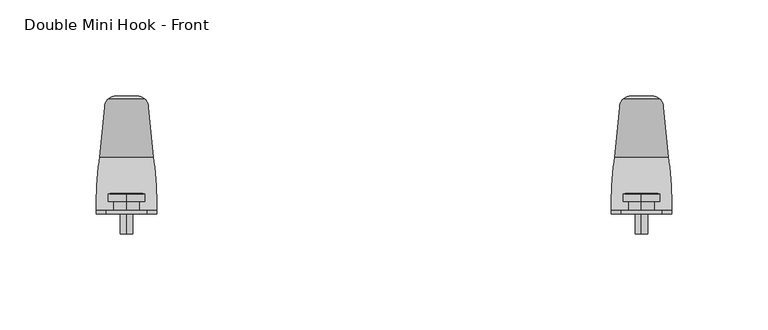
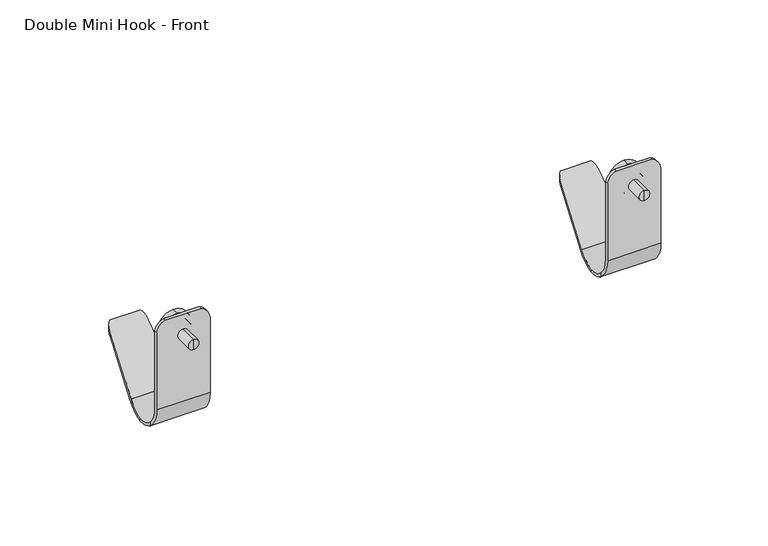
"""IFC4 building model written with IfcOpenShell, lengths in millimetres: furniture geometry, Steelcase Turnstone - Bivi - Accessories - Mini Hook : Double Mini Hook - Front."""

from ifc_helpers import new_model, si_unit, frame, origin, place, context, project, spatial, polyline, circle_curve, ellipse_curve, source, transform, mapped, element, save
from ifc_brep_helpers import plane_surface, cylinder_surface, revolved_surface, advanced_brep


def double_mini_hook_front_c12a3f64(model_context):
    return source(origin(), model_context, "Body", "AdvancedBrep", [
        advanced_brep(
        [(604.2870131, 120.2757621, 1018.5729419), (604.2870131, 120.2757621, 1027.0526221), (604.2870131, 120.2757621, 1035.5323022), (604.2870131, 119.8984646, 1017.6150198), (604.2870131, 119.8984646, 1036.4902243), (604.2870131, 115.9614653, 1017.6150198), (604.2870131, 115.9614653, 1036.4902243), (604.2870131, 115.9614653, 1020.4385878), (604.2870131, 115.9614653, 1033.6666563), (604.2870131, 110.3692216, 1020.4385878), (604.2870131, 110.3692216, 1033.6666563), (604.2870131, 110.3692216, 1023.8073744), (604.2870131, 110.3692216, 1030.2978697), (604.2870131, 99.1020656, 1023.8073744), (604.2870131, 99.1020656, 1030.2978697), (604.2870131, 99.1020656, 1027.0526221)],
        [
            (0, 1),
            (1, 2),
            (2, 0, circle_curve(frame((604.2870131, 120.2757621, 1027.0526221), z_axis=(0.0, 1.0, 0.0), x_axis=(0.0, 0.0, 1.0)), 8.4796802)),
            (0, 2, circle_curve(frame((604.2870131, 120.2757621, 1027.0526221), z_axis=(0.0, 1.0, 0.0), x_axis=(0.0, 0.0, 1.0)), 8.4796802)),
            (3, 0),
            (2, 4),
            (4, 3, circle_curve(frame((604.2870131, 119.8984646, 1027.0526221), z_axis=(0.0, 1.0, 0.0), x_axis=(0.0, 0.0, 1.0)), 9.4376022)),
            (3, 4, circle_curve(frame((604.2870131, 119.8984646, 1027.0526221), z_axis=(0.0, 1.0, 0.0), x_axis=(0.0, 0.0, 1.0)), 9.4376022)),
            (5, 3),
            (4, 6),
            (6, 5, circle_curve(frame((604.2870131, 115.9614653, 1027.0526221), z_axis=(0.0, 1.0, 0.0), x_axis=(0.0, 0.0, 1.0)), 9.4376022)),
            (5, 6, circle_curve(frame((604.2870131, 115.9614653, 1027.0526221), z_axis=(0.0, 1.0, 0.0), x_axis=(0.0, 0.0, 1.0)), 9.4376022)),
            (7, 5),
            (6, 8),
            (8, 7, circle_curve(frame((604.2870131, 115.9614653, 1027.0526221), z_axis=(0.0, 1.0, 0.0), x_axis=(0.0, 0.0, 1.0)), 6.6140343)),
            (7, 8, circle_curve(frame((604.2870131, 115.9614653, 1027.0526221), z_axis=(0.0, 1.0, 0.0), x_axis=(0.0, 0.0, 1.0)), 6.6140343)),
            (9, 7),
            (8, 10),
            (10, 9, circle_curve(frame((604.2870131, 110.3692216, 1027.0526221), z_axis=(0.0, 1.0, 0.0), x_axis=(0.0, 0.0, 1.0)), 6.6140343)),
            (9, 10, circle_curve(frame((604.2870131, 110.3692216, 1027.0526221), z_axis=(0.0, 1.0, 0.0), x_axis=(0.0, 0.0, 1.0)), 6.6140343)),
            (11, 9),
            (10, 12),
            (12, 11, circle_curve(frame((604.2870131, 110.3692216, 1027.0526221), z_axis=(0.0, 1.0, 0.0), x_axis=(0.0, 0.0, 1.0)), 3.2452477)),
            (11, 12, circle_curve(frame((604.2870131, 110.3692216, 1027.0526221), z_axis=(0.0, 1.0, 0.0), x_axis=(0.0, 0.0, 1.0)), 3.2452477)),
            (13, 11),
            (12, 14),
            (14, 13, circle_curve(frame((604.2870131, 99.1020656, 1027.0526221), z_axis=(0.0, 1.0, 0.0), x_axis=(0.0, 0.0, 1.0)), 3.2452477)),
            (13, 14, circle_curve(frame((604.2870131, 99.1020656, 1027.0526221), z_axis=(0.0, 1.0, 0.0), x_axis=(0.0, 0.0, 1.0)), 3.2452477)),
            (15, 13),
            (14, 15),
        ],
        [
            plane_surface(frame((604.2870131, 120.2757621, 1027.0526221), z_axis=(0.0, 1.0, 0.0), x_axis=(0.0, 0.0, 1.0))),
            revolved_surface(polyline([(604.2870131, 120.2757621, 1035.5323022), (604.2870131, 119.8984646, 1036.4902243)]), (604.2870131, 116.6738789, 1027.0526221), (0.0, -1.0, 0.0)),
            cylinder_surface(frame((604.2870131, 116.6738789, 1027.0526221), z_axis=(0.0, -1.0, 0.0), x_axis=(0.0, 0.0, 1.0)), 9.4376022),
            plane_surface(frame((604.2870131, 115.9614653, 1027.0526221), z_axis=(0.0, -1.0, 0.0), x_axis=(0.0, 0.0, 1.0))),
            cylinder_surface(frame((604.2870131, 116.6738789, 1027.0526221), z_axis=(0.0, -1.0, 0.0), x_axis=(0.0, 0.0, 1.0)), 6.6140343),
            plane_surface(frame((604.2870131, 110.3692216, 1027.0526221), z_axis=(0.0, -1.0, 0.0), x_axis=(0.0, 0.0, 1.0))),
            cylinder_surface(frame((604.2870131, 116.6738789, 1027.0526221), z_axis=(0.0, -1.0, 0.0), x_axis=(0.0, 0.0, 1.0)), 3.2452477),
            plane_surface(frame((604.2870131, 99.1020656, 1027.0526221), z_axis=(0.0, -1.0, 0.0), x_axis=(0.0, 0.0, 1.0))),
        ],
        [
            (0, [[1, 2, 3]]),
            (0, [[-2, -1, 4]]),
            (1, [[5, -3, 6, 7]]),
            (1, [[-6, -4, -5, 8]]),
            (2, [[9, -7, 10, 11]]),
            (2, [[-10, -8, -9, 12]]),
            (3, [[13, -11, 14, 15]]),
            (3, [[-14, -12, -13, 16]]),
            (4, [[17, -15, 18, 19]]),
            (4, [[-18, -16, -17, 20]]),
            (5, [[21, -19, 22, 23]]),
            (5, [[-22, -20, -21, 24]]),
            (6, [[25, -23, 26, 27]]),
            (6, [[-26, -24, -25, 28]]),
            (7, [[29, -27, 30]]),
            (7, [[-30, -28, -29]]),
        ],
    ),
        advanced_brep(
        [(588.412011, 111.3895045, 985.0156196), (588.412011, 115.9875666, 973.6348117), (588.412011, 115.9875666, 971.1769593), (588.412011, 109.4844564, 985.0156196), (588.412011, 109.4844564, 1031.8857507), (588.412011, 109.4844564, 1033.6357817), (588.412011, 111.3895045, 1033.6357817), (588.412011, 111.3895045, 1031.8857507), (620.1620178, 109.4844564, 985.0156196), (620.1620178, 115.9875175, 971.1770008), (620.1620178, 115.9875175, 973.6348625), (620.1620178, 111.3895045, 985.0156196), (620.1620178, 111.3895045, 1031.8857305), (620.1620178, 109.4844564, 1031.8857305), (589.0070625, 127.3418275, 966.8432061), (590.4000571, 140.5952849, 971.9889373), (618.1739692, 140.5952849, 971.9889373), (619.5669637, 127.3418275, 966.8432061), (592.989597, 165.2331117, 995.7814101), (598.8540827, 171.0975973, 1001.444678), (609.7199436, 171.0975973, 1001.444678), (615.5844292, 165.2331117, 995.7814101), (595.1226772, 169.757358, 1002.7849173), (613.451349, 169.757358, 1002.7849173), (592.989597, 165.2331117, 998.4159034), (590.2616932, 139.2788407, 973.3521552), (618.312333, 139.2788407, 973.3521552), (615.5844292, 165.2331117, 998.4159034), (619.5669637, 127.3418275, 968.6377665), (589.0070625, 127.3418275, 968.6377665), (593.7460056, 111.3895045, 1039.7526221), (614.8431999, 111.3895045, 1039.7526221), (593.7460056, 109.4844564, 1039.7526221), (614.8431999, 109.4844564, 1039.7526221)],
        [
            (0, 1, circle_curve(frame((588.412011, 127.7730331, 985.0156196), z_axis=(1.0, 0.0, 0.0), x_axis=(0.0, 1.0, 0.0)), 16.3835286)),
            (1, 2),
            (2, 3, circle_curve(frame((588.412011, 127.8422681, 985.1950728), z_axis=(-1.0, 0.0, 0.0), x_axis=(0.0, 1.0, 0.0)), 18.3586888)),
            (3, 4),
            (4, 5),
            (5, 6),
            (6, 7),
            (7, 0),
            (8, 9, circle_curve(frame((620.1620178, 127.8422681, 985.1950728), z_axis=(1.0, 0.0, 0.0), x_axis=(0.0, 1.0, 0.0)), 18.3586888)),
            (9, 10),
            (10, 11, circle_curve(frame((620.1620178, 127.7730331, 985.0156196), z_axis=(-1.0, 0.0, 0.0), x_axis=(0.0, 1.0, 0.0)), 16.3835286)),
            (11, 12),
            (12, 13),
            (13, 8),
            (2, 14, ellipse_curve(frame((589.0332895, 127.8422681, 985.1950728), z_axis=(0.998629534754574, -0.05233595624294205, 0.0), x_axis=(-0.052335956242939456, -0.998629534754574, 0.0)), 18.3838833, 18.3586888)),
            (14, 15, ellipse_curve(frame((589.059661, 127.8422681, 985.1950728), z_axis=(0.9945218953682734, -0.10452846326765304, 0.0), x_axis=(-0.10452846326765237, -0.9945218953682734, 0.0)), 18.4598136, 18.3586888)),
            (15, 16),
            (16, 17, ellipse_curve(frame((619.5143652, 127.8422681, 985.1950728), z_axis=(-0.9945218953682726, -0.10452846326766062, 0.0), x_axis=(-0.1045284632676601, 0.9945218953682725, 0.0)), 18.4598136, 18.3586888)),
            (17, 9, ellipse_curve(frame((619.5407367, 127.8422681, 985.1950728), z_axis=(-0.9986295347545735, -0.052335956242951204, 0.0), x_axis=(-0.05233595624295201, 0.9986295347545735, 0.0)), 18.3838833, 18.3586888)),
            (8, 3),
            (15, 18),
            (18, 19, ellipse_curve(frame((598.8540827, 165.2331117, 995.7814101), z_axis=(0.0, 0.6946583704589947, -0.7193398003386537), x_axis=(0.0, -0.7193398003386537, -0.6946583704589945)), 8.1525944, 5.8644857)),
            (19, 20),
            (20, 21, ellipse_curve(frame((609.7199436, 165.2331117, 995.7814101), z_axis=(0.0, 0.6946583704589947, -0.7193398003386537), x_axis=(0.0, -0.7193398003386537, -0.6946583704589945)), 8.1525944, 5.8644857)),
            (21, 16),
            (19, 22, ellipse_curve(frame((598.8540827, 165.2331117, 1007.3091637), z_axis=(0.0, 0.7071067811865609, 0.7071067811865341), x_axis=(0.0, 0.7071067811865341, -0.7071067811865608)), 8.2936352, 5.8644857)),
            (22, 23),
            (23, 20, ellipse_curve(frame((609.7199436, 165.2331117, 1007.3091637), z_axis=(0.0, 0.7071067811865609, 0.7071067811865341), x_axis=(0.0, 0.7071067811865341, -0.7071067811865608)), 8.2936352, 5.8644857)),
            (22, 24, ellipse_curve(frame((598.8540827, 165.2331117, 998.4159034), z_axis=(0.0, -0.6946583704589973, 0.7193398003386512), x_axis=(0.0, -0.7193398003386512, -0.6946583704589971)), 8.1525944, 5.8644857)),
            (24, 25),
            (25, 26),
            (26, 27),
            (27, 23, ellipse_curve(frame((609.7199436, 165.2331117, 998.4159034), z_axis=(0.0, -0.6946583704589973, 0.7193398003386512), x_axis=(0.0, -0.7193398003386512, -0.6946583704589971)), 8.1525944, 5.8644857)),
            (10, 28, ellipse_curve(frame((619.5443651, 127.7730331, 985.0156196), z_axis=(0.9986295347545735, 0.052335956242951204, 0.0), x_axis=(0.05233595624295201, -0.9986295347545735, 0.0)), 16.4060125, 16.3835286)),
            (28, 26, ellipse_curve(frame((619.5216421, 127.7730331, 985.0156196), z_axis=(0.9945218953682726, 0.10452846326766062, 0.0), x_axis=(0.1045284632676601, -0.9945218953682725, 0.0)), 16.4737737, 16.3835286)),
            (25, 29, ellipse_curve(frame((589.0523841, 127.7730331, 985.0156196), z_axis=(-0.9945218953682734, 0.10452846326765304, 0.0), x_axis=(0.10452846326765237, 0.9945218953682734, 0.0)), 16.4737737, 16.3835286)),
            (29, 1, ellipse_curve(frame((589.0296611, 127.7730331, 985.0156196), z_axis=(-0.998629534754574, 0.05233595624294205, 0.0), x_axis=(0.052335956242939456, 0.998629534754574, 0.0)), 16.4060125, 16.3835286)),
            (0, 11),
            (6, 30, circle_curve(frame((595.5897362, 111.3895045, 1032.7607662), z_axis=(0.0, 1.0, 0.0), x_axis=(-1.0, 0.0, 0.0)), 7.2308638)),
            (30, 31),
            (31, 12, circle_curve(frame((610.8894917, 111.3895045, 1031.3404182), z_axis=(0.0, 1.0, 0.0), x_axis=(-1.0, 0.0, 0.0)), 9.288547)),
            (30, 32),
            (32, 33),
            (33, 31),
            (13, 33, circle_curve(frame((610.8894917, 109.4844564, 1031.3404182), z_axis=(0.0, -1.0, 0.0), x_axis=(-1.0, 0.0, 0.0)), 9.288547)),
            (32, 5, circle_curve(frame((595.5897362, 109.4844564, 1032.7607662), z_axis=(0.0, -1.0, 0.0), x_axis=(-1.0, 0.0, 0.0)), 7.2308638)),
            (21, 27),
            (28, 17),
            (29, 14),
            (18, 24),
        ],
        [
            plane_surface(frame((588.412011, 146.2009569, 985.1950728), z_axis=(-1.0, 0.0, 0.0), x_axis=(0.0, 0.0, 1.0))),
            plane_surface(frame((620.1620178, 146.2009569, 985.1950728), z_axis=(1.0, 0.0, 0.0), x_axis=(0.0, 0.0, -1.0))),
            cylinder_surface(frame((620.1620178, 127.8422681, 985.1950728), z_axis=(-1.0, 0.0, 0.0), x_axis=(0.0, 1.0, 0.0)), 18.3586888),
            plane_surface(frame((588.412011, 140.5952849, 971.9889373), z_axis=(0.0, 0.6946583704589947, -0.7193398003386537), x_axis=(1.0, 0.0, 0.0))),
            plane_surface(frame((588.412011, 171.0975973, 1001.444678), z_axis=(0.0, 0.7071067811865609, 0.7071067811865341), x_axis=(1.0, 0.0, 0.0))),
            plane_surface(frame((588.412011, 169.757358, 1002.7849173), z_axis=(0.0, -0.6946583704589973, 0.7193398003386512), x_axis=(1.0, 0.0, 0.0))),
            revolved_surface(polyline([(621.2436203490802, 144.1565617, 985.0156196), (587.33040585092, 144.1565617, 985.0156196)]), (620.1620178, 127.7730331, 985.0156196), (1.0, 0.0, 0.0)),
            plane_surface(frame((588.412011, 111.3895045, 985.0156196), z_axis=(0.0, 1.0, 0.0), x_axis=(1.0, 0.0, 0.0))),
            plane_surface(frame((588.412011, 111.3895045, 1039.7526221), z_axis=(0.0, 0.0, 1.0), x_axis=(1.0, 0.0, 0.0))),
            plane_surface(frame((588.412011, 109.4844564, 1039.7526221), z_axis=(0.0, -1.0, 0.0), x_axis=(1.0, 0.0, 0.0))),
            cylinder_surface(frame((610.8894917, 76.958841, 1031.3404182), z_axis=(0.0, -1.0, 0.0), x_axis=(-1.0, 0.0, 0.0)), 9.288547),
            cylinder_surface(frame((595.5897362, 131.6332564, 1032.7607662), z_axis=(0.0, -1.0, 0.0), x_axis=(-1.0, 0.0, 0.0)), 7.2308638),
            plane_surface(frame((619.5669637, 127.3418275, 1017.6150198), z_axis=(0.9945218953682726, 0.10452846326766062, 0.0), x_axis=(0.0, 0.0, -1.0))),
            cylinder_surface(frame((609.7199436, 165.2331117, 316.2188303), z_axis=(0.0, 0.0, -1.0), x_axis=(0.0, 1.0, 0.0)), 5.8644857),
            plane_surface(frame((620.1620178, 115.9875175, 1017.6150198), z_axis=(0.9986295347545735, 0.052335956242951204, 0.0), x_axis=(0.0, 0.0, -1.0))),
            plane_surface(frame((589.0070625, 127.3418275, 1017.6150198), z_axis=(-0.998629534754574, 0.05233595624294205, 0.0), x_axis=(0.0, 0.0, -1.0))),
            cylinder_surface(frame((598.8540827, 165.2331117, 316.2188303), z_axis=(0.0, 0.0, -1.0), x_axis=(0.0, 1.0, 0.0)), 5.8644857),
            plane_surface(frame((592.989597, 165.2331117, 1017.6150198), z_axis=(-0.9945218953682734, 0.10452846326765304, 0.0), x_axis=(0.0, 0.0, -1.0))),
        ],
        [
            (0, [[1, 2, 3, 4, 5, 6, 7, 8]]),
            (1, [[9, 10, 11, 12, 13, 14]]),
            (2, [[-3, 15, 16, 17, 18, 19, -9, 20]]),
            (3, [[21, 22, 23, 24, 25, -17]]),
            (4, [[26, 27, 28, -23]]),
            (5, [[29, 30, 31, 32, 33, -27]]),
            (6, [[-11, 34, 35, -31, 36, 37, -1, 38]]),
            (7, [[-8, -7, 39, 40, 41, -12, -38]]),
            (8, [[42, 43, 44, -40]]),
            (9, [[-14, 45, -43, 46, -5, -4, -20]]),
            (10, [[-41, -44, -45, -13]]),
            (11, [[-46, -42, -39, -6]]),
            (12, [[-18, -25, 47, -32, -35, 48]]),
            (13, [[-24, -28, -33, -47]]),
            (14, [[-34, -10, -19, -48]]),
            (15, [[-15, -2, -37, 49]]),
            (16, [[-29, -26, -22, 50]]),
            (17, [[-36, -30, -50, -21, -16, -49]]),
        ],
    ),
        advanced_brep(
        [(872.4689869, 120.2757621, 1018.5729419), (872.4689869, 120.2757621, 1027.0526221), (872.4689869, 120.2757621, 1035.5323022), (872.4689869, 119.8984646, 1017.6150198), (872.4689869, 119.8984646, 1036.4902243), (872.4689869, 115.9614653, 1017.6150198), (872.4689869, 115.9614653, 1036.4902243), (872.4689869, 115.9614653, 1020.4385878), (872.4689869, 115.9614653, 1033.6666563), (872.4689869, 110.3692216, 1020.4385878), (872.4689869, 110.3692216, 1033.6666563), (872.4689869, 110.3692216, 1023.8073744), (872.4689869, 110.3692216, 1030.2978697), (872.4689869, 99.1020656, 1023.8073744), (872.4689869, 99.1020656, 1030.2978697), (872.4689869, 99.1020656, 1027.0526221)],
        [
            (0, 1),
            (1, 2),
            (2, 0, circle_curve(frame((872.4689869, 120.2757621, 1027.0526221), z_axis=(0.0, 1.0, 0.0), x_axis=(0.0, 0.0, 1.0)), 8.4796802)),
            (0, 2, circle_curve(frame((872.4689869, 120.2757621, 1027.0526221), z_axis=(0.0, 1.0, 0.0), x_axis=(0.0, 0.0, 1.0)), 8.4796802)),
            (3, 0),
            (2, 4),
            (4, 3, circle_curve(frame((872.4689869, 119.8984646, 1027.0526221), z_axis=(0.0, 1.0, 0.0), x_axis=(0.0, 0.0, 1.0)), 9.4376022)),
            (3, 4, circle_curve(frame((872.4689869, 119.8984646, 1027.0526221), z_axis=(0.0, 1.0, 0.0), x_axis=(0.0, 0.0, 1.0)), 9.4376022)),
            (5, 3),
            (4, 6),
            (6, 5, circle_curve(frame((872.4689869, 115.9614653, 1027.0526221), z_axis=(0.0, 1.0, 0.0), x_axis=(0.0, 0.0, 1.0)), 9.4376022)),
            (5, 6, circle_curve(frame((872.4689869, 115.9614653, 1027.0526221), z_axis=(0.0, 1.0, 0.0), x_axis=(0.0, 0.0, 1.0)), 9.4376022)),
            (7, 5),
            (6, 8),
            (8, 7, circle_curve(frame((872.4689869, 115.9614653, 1027.0526221), z_axis=(0.0, 1.0, 0.0), x_axis=(0.0, 0.0, 1.0)), 6.6140343)),
            (7, 8, circle_curve(frame((872.4689869, 115.9614653, 1027.0526221), z_axis=(0.0, 1.0, 0.0), x_axis=(0.0, 0.0, 1.0)), 6.6140343)),
            (9, 7),
            (8, 10),
            (10, 9, circle_curve(frame((872.4689869, 110.3692216, 1027.0526221), z_axis=(0.0, 1.0, 0.0), x_axis=(0.0, 0.0, 1.0)), 6.6140343)),
            (9, 10, circle_curve(frame((872.4689869, 110.3692216, 1027.0526221), z_axis=(0.0, 1.0, 0.0), x_axis=(0.0, 0.0, 1.0)), 6.6140343)),
            (11, 9),
            (10, 12),
            (12, 11, circle_curve(frame((872.4689869, 110.3692216, 1027.0526221), z_axis=(0.0, 1.0, 0.0), x_axis=(0.0, 0.0, 1.0)), 3.2452477)),
            (11, 12, circle_curve(frame((872.4689869, 110.3692216, 1027.0526221), z_axis=(0.0, 1.0, 0.0), x_axis=(0.0, 0.0, 1.0)), 3.2452477)),
            (13, 11),
            (12, 14),
            (14, 13, circle_curve(frame((872.4689869, 99.1020656, 1027.0526221), z_axis=(0.0, 1.0, 0.0), x_axis=(0.0, 0.0, 1.0)), 3.2452477)),
            (13, 14, circle_curve(frame((872.4689869, 99.1020656, 1027.0526221), z_axis=(0.0, 1.0, 0.0), x_axis=(0.0, 0.0, 1.0)), 3.2452477)),
            (15, 13),
            (14, 15),
        ],
        [
            plane_surface(frame((872.4689869, 120.2757621, 1027.0526221), z_axis=(0.0, 1.0, 0.0), x_axis=(0.0, 0.0, 1.0))),
            revolved_surface(polyline([(872.4689869, 120.2757621, 1035.5323022), (872.4689869, 119.8984646, 1036.4902243)]), (872.4689869, 116.6738789, 1027.0526221), (0.0, -1.0000000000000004, 0.0)),
            cylinder_surface(frame((872.4689869, 116.6738789, 1027.0526221), z_axis=(0.0, -1.0000000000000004, 0.0), x_axis=(0.0, 0.0, 1.0)), 9.4376022),
            plane_surface(frame((872.4689869, 115.9614653, 1027.0526221), z_axis=(0.0, -1.0, 0.0), x_axis=(0.0, 0.0, 1.0))),
            cylinder_surface(frame((872.4689869, 116.6738789, 1027.0526221), z_axis=(0.0, -1.0000000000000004, 0.0), x_axis=(0.0, 0.0, 1.0)), 6.6140343),
            plane_surface(frame((872.4689869, 110.3692216, 1027.0526221), z_axis=(0.0, -1.0, 0.0), x_axis=(0.0, 0.0, 1.0))),
            cylinder_surface(frame((872.4689869, 116.6738789, 1027.0526221), z_axis=(0.0, -1.0000000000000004, 0.0), x_axis=(0.0, 0.0, 1.0)), 3.2452477),
            plane_surface(frame((872.4689869, 99.1020656, 1027.0526221), z_axis=(0.0, -1.0, 0.0), x_axis=(0.0, 0.0, 1.0))),
        ],
        [
            (0, [[1, 2, 3]]),
            (0, [[-2, -1, 4]]),
            (1, [[5, -3, 6, 7]]),
            (1, [[-6, -4, -5, 8]]),
            (2, [[9, -7, 10, 11]]),
            (2, [[-10, -8, -9, 12]]),
            (3, [[13, -11, 14, 15]]),
            (3, [[-14, -12, -13, 16]]),
            (4, [[17, -15, 18, 19]]),
            (4, [[-18, -16, -17, 20]]),
            (5, [[21, -19, 22, 23]]),
            (5, [[-22, -20, -21, 24]]),
            (6, [[25, -23, 26, 27]]),
            (6, [[-26, -24, -25, 28]]),
            (7, [[29, -27, 30]]),
            (7, [[-30, -28, -29]]),
        ],
    ),
        advanced_brep(
        [(856.5939847, 111.3895045, 985.0156196), (856.5939847, 115.9875666, 973.6348117), (856.5939847, 115.9875666, 971.1769593), (856.5939847, 109.4844564, 985.0156196), (856.5939847, 109.4844564, 1031.8857507), (856.5939847, 109.4844564, 1033.6357817), (856.5939847, 111.3895045, 1033.6357817), (856.5939847, 111.3895045, 1031.8857507), (888.3439916, 109.4844564, 985.0156196), (888.3439916, 115.9875175, 971.1770008), (888.3439916, 115.9875175, 973.6348625), (888.3439916, 111.3895045, 985.0156196), (888.3439916, 111.3895045, 1031.8857305), (888.3439916, 109.4844564, 1031.8857305), (857.1890363, 127.3418275, 966.8432061), (858.5820308, 140.5952849, 971.9889373), (886.3559429, 140.5952849, 971.9889373), (887.7489375, 127.3418275, 966.8432061), (861.1715708, 165.2331117, 995.7814101), (867.0360564, 171.0975973, 1001.444678), (877.9019173, 171.0975973, 1001.444678), (883.766403, 165.2331117, 995.7814101), (863.304651, 169.757358, 1002.7849173), (881.6333228, 169.757358, 1002.7849173), (861.1715708, 165.2331117, 998.4159034), (858.443667, 139.2788407, 973.3521552), (886.4943068, 139.2788407, 973.3521552), (883.766403, 165.2331117, 998.4159034), (887.7489375, 127.3418275, 968.6377665), (857.1890363, 127.3418275, 968.6377665), (861.9279793, 111.3895045, 1039.7526221), (883.0251737, 111.3895045, 1039.7526221), (861.9279793, 109.4844564, 1039.7526221), (883.0251737, 109.4844564, 1039.7526221)],
        [
            (0, 1, circle_curve(frame((856.5939847, 127.7730331, 985.0156196), z_axis=(1.0, 0.0, 0.0), x_axis=(0.0, 1.0000000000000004, 0.0)), 16.3835286)),
            (1, 2),
            (2, 3, circle_curve(frame((856.5939847, 127.8422681, 985.1950728), z_axis=(-1.0, 0.0, 0.0), x_axis=(0.0, 1.0000000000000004, 0.0)), 18.3586888)),
            (3, 4),
            (4, 5),
            (5, 6),
            (6, 7),
            (7, 0),
            (8, 9, circle_curve(frame((888.3439916, 127.8422681, 985.1950728), z_axis=(1.0, 0.0, 0.0), x_axis=(0.0, 1.0000000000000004, 0.0)), 18.3586888)),
            (9, 10),
            (10, 11, circle_curve(frame((888.3439916, 127.7730331, 985.0156196), z_axis=(-1.0, 0.0, 0.0), x_axis=(0.0, 1.0000000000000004, 0.0)), 16.3835286)),
            (11, 12),
            (12, 13),
            (13, 8),
            (2, 14, ellipse_curve(frame((857.2152633, 127.8422681, 985.1950728), z_axis=(0.998629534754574, -0.05233595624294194, 0.0), x_axis=(-0.052335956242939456, -0.998629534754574, 0.0)), 18.3838833, 18.3586888)),
            (14, 15, ellipse_curve(frame((857.2416348, 127.8422681, 985.1950728), z_axis=(0.9945218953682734, -0.10452846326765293, 0.0), x_axis=(-0.10452846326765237, -0.9945218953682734, 0.0)), 18.4598136, 18.3586888)),
            (15, 16),
            (16, 17, ellipse_curve(frame((887.696339, 127.8422681, 985.1950728), z_axis=(-0.9945218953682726, -0.10452846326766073, 0.0), x_axis=(-0.1045284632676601, 0.9945218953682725, 0.0)), 18.4598136, 18.3586888)),
            (17, 9, ellipse_curve(frame((887.7227105, 127.8422681, 985.1950728), z_axis=(-0.9986295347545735, -0.052335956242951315, 0.0), x_axis=(-0.05233595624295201, 0.9986295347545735, 0.0)), 18.3838833, 18.3586888)),
            (8, 3),
            (15, 18),
            (18, 19, ellipse_curve(frame((867.0360564, 165.2331117, 995.7814101), z_axis=(0.0, 0.6946583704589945, -0.7193398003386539), x_axis=(0.0, -0.7193398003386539, -0.6946583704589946)), 8.1525944, 5.8644857)),
            (19, 20),
            (20, 21, ellipse_curve(frame((877.9019173, 165.2331117, 995.7814101), z_axis=(0.0, 0.6946583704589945, -0.7193398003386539), x_axis=(0.0, -0.7193398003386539, -0.6946583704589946)), 8.1525944, 5.8644857)),
            (21, 16),
            (19, 22, ellipse_curve(frame((867.0360564, 165.2331117, 1007.3091637), z_axis=(0.0, 0.7071067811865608, 0.7071067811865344), x_axis=(0.0, 0.7071067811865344, -0.7071067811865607)), 8.2936352, 5.8644857)),
            (22, 23),
            (23, 20, ellipse_curve(frame((877.9019173, 165.2331117, 1007.3091637), z_axis=(0.0, 0.7071067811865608, 0.7071067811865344), x_axis=(0.0, 0.7071067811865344, -0.7071067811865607)), 8.2936352, 5.8644857)),
            (22, 24, ellipse_curve(frame((867.0360564, 165.2331117, 998.4159034), z_axis=(0.0, -0.6946583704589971, 0.7193398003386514), x_axis=(0.0, -0.7193398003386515, -0.6946583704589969)), 8.1525944, 5.8644857)),
            (24, 25),
            (25, 26),
            (26, 27),
            (27, 23, ellipse_curve(frame((877.9019173, 165.2331117, 998.4159034), z_axis=(0.0, -0.6946583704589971, 0.7193398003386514), x_axis=(0.0, -0.7193398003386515, -0.6946583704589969)), 8.1525944, 5.8644857)),
            (10, 28, ellipse_curve(frame((887.7263389, 127.7730331, 985.0156196), z_axis=(0.9986295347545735, 0.052335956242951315, 0.0), x_axis=(0.05233595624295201, -0.9986295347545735, 0.0)), 16.4060125, 16.3835286)),
            (28, 26, ellipse_curve(frame((887.7036159, 127.7730331, 985.0156196), z_axis=(0.9945218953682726, 0.10452846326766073, 0.0), x_axis=(0.1045284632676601, -0.9945218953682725, 0.0)), 16.4737737, 16.3835286)),
            (25, 29, ellipse_curve(frame((857.2343579, 127.7730331, 985.0156196), z_axis=(-0.9945218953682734, 0.10452846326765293, 0.0), x_axis=(0.10452846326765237, 0.9945218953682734, 0.0)), 16.4737737, 16.3835286)),
            (29, 1, ellipse_curve(frame((857.2116349, 127.7730331, 985.0156196), z_axis=(-0.998629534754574, 0.05233595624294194, 0.0), x_axis=(0.052335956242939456, 0.998629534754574, 0.0)), 16.4060125, 16.3835286)),
            (0, 11),
            (6, 30, circle_curve(frame((863.77171, 111.3895045, 1032.7607662), z_axis=(0.0, 1.0, 0.0), x_axis=(-1.0000000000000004, 0.0, 0.0)), 7.2308638)),
            (30, 31),
            (31, 12, circle_curve(frame((879.0714655, 111.3895045, 1031.3404182), z_axis=(0.0, 1.0, 0.0), x_axis=(-1.0000000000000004, 0.0, 0.0)), 9.288547)),
            (30, 32),
            (32, 33),
            (33, 31),
            (13, 33, circle_curve(frame((879.0714655, 109.4844564, 1031.3404182), z_axis=(0.0, -1.0, 0.0), x_axis=(-1.0000000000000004, 0.0, 0.0)), 9.288547)),
            (32, 5, circle_curve(frame((863.77171, 109.4844564, 1032.7607662), z_axis=(0.0, -1.0, 0.0), x_axis=(-1.0000000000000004, 0.0, 0.0)), 7.2308638)),
            (21, 27),
            (28, 17),
            (29, 14),
            (18, 24),
        ],
        [
            plane_surface(frame((856.5939847, 146.2009569, 985.1950728), z_axis=(-1.0, 0.0, 0.0), x_axis=(0.0, 0.0, 1.0))),
            plane_surface(frame((888.3439916, 146.2009569, 985.1950728), z_axis=(1.0, 0.0, 0.0), x_axis=(0.0, 0.0, -1.0))),
            cylinder_surface(frame((888.3439916, 127.8422681, 985.1950728), z_axis=(-1.0000000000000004, 0.0, 0.0), x_axis=(0.0, 1.0000000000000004, 0.0)), 18.3586888),
            plane_surface(frame((856.5939847, 140.5952849, 971.9889373), z_axis=(0.0, 0.6946583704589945, -0.7193398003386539), x_axis=(1.0, 0.0, 0.0))),
            plane_surface(frame((856.5939847, 171.0975973, 1001.444678), z_axis=(0.0, 0.7071067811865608, 0.7071067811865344), x_axis=(1.0, 0.0, 0.0))),
            plane_surface(frame((856.5939847, 169.757358, 1002.7849173), z_axis=(0.0, -0.6946583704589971, 0.7193398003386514), x_axis=(1.0, 0.0, 0.0))),
            revolved_surface(polyline([(889.4255941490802, 144.15656170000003, 985.0156196), (855.5123796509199, 144.15656170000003, 985.0156196)]), (888.3439916, 127.7730331, 985.0156196), (1.0000000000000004, 0.0, 0.0)),
            plane_surface(frame((856.5939847, 111.3895045, 985.0156196), z_axis=(0.0, 1.0, 0.0), x_axis=(1.0, 0.0, 0.0))),
            plane_surface(frame((856.5939847, 111.3895045, 1039.7526221), z_axis=(0.0, 0.0, 1.0), x_axis=(1.0, 0.0, 0.0))),
            plane_surface(frame((856.5939847, 109.4844564, 1039.7526221), z_axis=(0.0, -1.0, 0.0), x_axis=(1.0, 0.0, 0.0))),
            cylinder_surface(frame((879.0714655, 76.958841, 1031.3404182), z_axis=(0.0, -1.0000000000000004, 0.0), x_axis=(-1.0000000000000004, 0.0, 0.0)), 9.288547),
            cylinder_surface(frame((863.77171, 131.6332564, 1032.7607662), z_axis=(0.0, -1.0000000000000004, 0.0), x_axis=(-1.0000000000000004, 0.0, 0.0)), 7.2308638),
            plane_surface(frame((887.7489375, 127.3418275, 1017.6150198), z_axis=(0.9945218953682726, 0.10452846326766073, 0.0), x_axis=(0.0, 0.0, -1.0))),
            cylinder_surface(frame((877.9019173, 165.2331117, 316.2188303), z_axis=(0.0, 0.0, -1.0), x_axis=(0.0, 1.0000000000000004, 0.0)), 5.8644857),
            plane_surface(frame((888.3439916, 115.9875175, 1017.6150198), z_axis=(0.9986295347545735, 0.052335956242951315, 0.0), x_axis=(0.0, 0.0, -1.0))),
            plane_surface(frame((857.1890363, 127.3418275, 1017.6150198), z_axis=(-0.998629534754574, 0.05233595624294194, 0.0), x_axis=(0.0, 0.0, -1.0))),
            cylinder_surface(frame((867.0360564, 165.2331117, 316.2188303), z_axis=(0.0, 0.0, -1.0), x_axis=(0.0, 1.0000000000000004, 0.0)), 5.8644857),
            plane_surface(frame((861.1715708, 165.2331117, 1017.6150198), z_axis=(-0.9945218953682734, 0.10452846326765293, 0.0), x_axis=(0.0, 0.0, -1.0))),
        ],
        [
            (0, [[1, 2, 3, 4, 5, 6, 7, 8]]),
            (1, [[9, 10, 11, 12, 13, 14]]),
            (2, [[-3, 15, 16, 17, 18, 19, -9, 20]]),
            (3, [[21, 22, 23, 24, 25, -17]]),
            (4, [[26, 27, 28, -23]]),
            (5, [[29, 30, 31, 32, 33, -27]]),
            (6, [[-11, 34, 35, -31, 36, 37, -1, 38]]),
            (7, [[-8, -7, 39, 40, 41, -12, -38]]),
            (8, [[42, 43, 44, -40]]),
            (9, [[-14, 45, -43, 46, -5, -4, -20]]),
            (10, [[-41, -44, -45, -13]]),
            (11, [[-46, -42, -39, -6]]),
            (12, [[-18, -25, 47, -32, -35, 48]]),
            (13, [[-24, -28, -33, -47]]),
            (14, [[-34, -10, -19, -48]]),
            (15, [[-15, -2, -37, 49]]),
            (16, [[-29, -26, -22, 50]]),
            (17, [[-36, -30, -50, -21, -16, -49]]),
        ],
    ),
    ])


if __name__ == "__main__":
    model = new_model("IFC4")
    model_context = context("Model", 3, world=origin())
    ifc_project = project(units=[si_unit("LENGTHUNIT", "METRE", prefix="MILLI")], contexts=[model_context])
    site = spatial("IfcSite", under=ifc_project)
    building = spatial("IfcBuilding", under=site)
    placement = place(None, origin())
    double_mini_hook_front_shape = double_mini_hook_front_c12a3f64(model_context)
    element("IfcFurniture", 1, ObjectType="Steelcase Turnstone - Bivi - Accessories - Mini Hook : Double Mini Hook - Front", at=placement, inside=building, context=model_context, shape_type="MappedRepresentation", body=[
        mapped(double_mini_hook_front_shape, transform((0.0, 0.0, 0.0), x_axis=(1.0, 0.0, 0.0), y_axis=(0.0, 1.0, 0.0), z_axis=(0.0, 0.0, 1.0))),
    ])
    save(model, "model.ifc")
